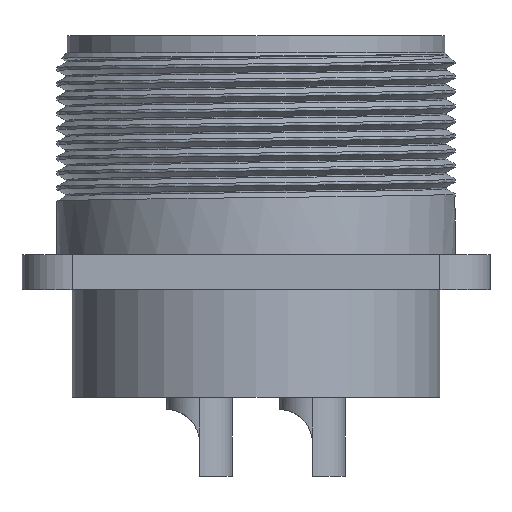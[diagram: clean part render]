
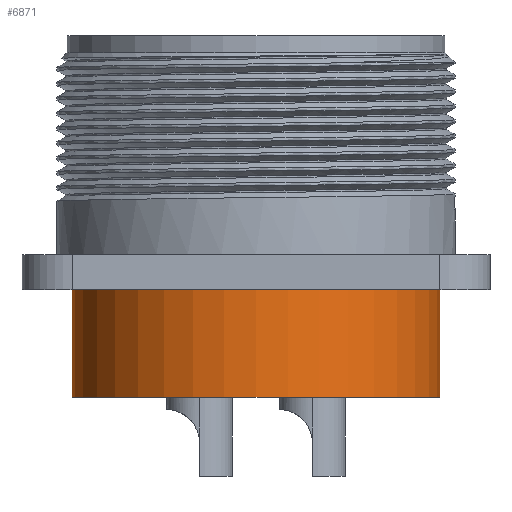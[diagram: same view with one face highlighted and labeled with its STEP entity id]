
A CAD part, front view. The second image highlights one B-rep face of the part: STEP entity #6871.
In plain terms, the highlighted cylindrical face has radius 17.46 mm (diameter 34.92 mm), a partial arc.
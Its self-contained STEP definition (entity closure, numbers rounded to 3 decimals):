
#940 = CARTESIAN_POINT ( 'NONE',  ( -17.46, 0., -34.35 ) ) ;
#948 = VECTOR ( 'NONE', #28484, 1000. ) ;
#1653 = VERTEX_POINT ( 'NONE', #18846 ) ;
#1655 = EDGE_CURVE ( 'NONE', #2087, #1653, #18424, .T. ) ;
#2087 = VERTEX_POINT ( 'NONE', #7945 ) ;
#2746 = EDGE_CURVE ( 'NONE', #1653, #5698, #16587, .T. ) ;
#3776 = DIRECTION ( 'NONE',  ( 0., 0., 1. ) ) ;
#4908 = AXIS2_PLACEMENT_3D ( 'NONE', #15069, #3776, #28660 ) ;
#5493 = CARTESIAN_POINT ( 'NONE',  ( -15.121, -8.73, -23.55 ) ) ;
#5698 = VERTEX_POINT ( 'NONE', #22706 ) ;
#5869 = EDGE_LOOP ( 'NONE', ( #26574, #13783, #21986, #18844, #18796, #20386, #13561, #7584 ) ) ;
#6871 = ADVANCED_FACE ( 'NONE', ( #17916 ), #11218, .T. ) ;
#7252 = CARTESIAN_POINT ( 'NONE',  ( 0., 0., -24.15 ) ) ;
#7584 = ORIENTED_EDGE ( 'NONE', *, *, #8041, .F. ) ;
#7945 = CARTESIAN_POINT ( 'NONE',  ( -8.73, -15.121, -23.55 ) ) ;
#8041 = EDGE_CURVE ( 'NONE', #19809, #22594, #28152, .T. ) ;
#8195 = DIRECTION ( 'NONE',  ( 0., 0., -1. ) ) ;
#8308 = VERTEX_POINT ( 'NONE', #8332 ) ;
#8332 = CARTESIAN_POINT ( 'NONE',  ( -17.46, 0., -34.35 ) ) ;
#8472 = AXIS2_PLACEMENT_3D ( 'NONE', #24730, #11209, #27048 ) ;
#8587 = EDGE_CURVE ( 'NONE', #8308, #19809, #13632, .T. ) ;
#8997 = EDGE_CURVE ( 'NONE', #8308, #24190, #29204, .T. ) ;
#9533 = DIRECTION ( 'NONE',  ( 1., 0., 0. ) ) ;
#10040 = DIRECTION ( 'NONE',  ( 0., 0., 1. ) ) ;
#10191 = CARTESIAN_POINT ( 'NONE',  ( 0., 0., -23.55 ) ) ;
#11209 = DIRECTION ( 'NONE',  ( 0., 0., 1. ) ) ;
#11218 = CYLINDRICAL_SURFACE ( 'NONE', #4908, 17.46 ) ;
#12127 = CARTESIAN_POINT ( 'NONE',  ( 0., 0., -34.35 ) ) ;
#12415 = VECTOR ( 'NONE', #13265, 1000. ) ;
#12504 = DIRECTION ( 'NONE',  ( -1., 0., 0. ) ) ;
#12636 = CARTESIAN_POINT ( 'NONE',  ( 17.46, 0., -34.35 ) ) ;
#13265 = DIRECTION ( 'NONE',  ( 0., 0., -1. ) ) ;
#13561 = ORIENTED_EDGE ( 'NONE', *, *, #28141, .T. ) ;
#13632 = LINE ( 'NONE', #940, #17485 ) ;
#13783 = ORIENTED_EDGE ( 'NONE', *, *, #8997, .T. ) ;
#14397 = DIRECTION ( 'NONE',  ( 1., 0., 0. ) ) ;
#14608 = CARTESIAN_POINT ( 'NONE',  ( -17.46, 0., -24.15 ) ) ;
#15069 = CARTESIAN_POINT ( 'NONE',  ( 0., 0., -34.35 ) ) ;
#15912 = AXIS2_PLACEMENT_3D ( 'NONE', #10191, #26032, #12504 ) ;
#15945 = AXIS2_PLACEMENT_3D ( 'NONE', #7252, #23087, #9533 ) ;
#16173 = CARTESIAN_POINT ( 'NONE',  ( 17.46, 0., -34.35 ) ) ;
#16587 = CIRCLE ( 'NONE', #8472, 17.46 ) ;
#17222 = CARTESIAN_POINT ( 'NONE',  ( -8.73, -15.121, -23.55 ) ) ;
#17485 = VECTOR ( 'NONE', #10040, 1000. ) ;
#17916 = FACE_OUTER_BOUND ( 'NONE', #5869, .T. ) ;
#18335 = LINE ( 'NONE', #12636, #948 ) ;
#18424 = LINE ( 'NONE', #17222, #12415 ) ;
#18796 = ORIENTED_EDGE ( 'NONE', *, *, #1655, .F. ) ;
#18844 = ORIENTED_EDGE ( 'NONE', *, *, #2746, .F. ) ;
#18846 = CARTESIAN_POINT ( 'NONE',  ( -8.73, -15.121, -24.15 ) ) ;
#19047 = EDGE_CURVE ( 'NONE', #22852, #2087, #20096, .T. ) ;
#19344 = AXIS2_PLACEMENT_3D ( 'NONE', #12127, #27965, #14397 ) ;
#19809 = VERTEX_POINT ( 'NONE', #14608 ) ;
#20063 = CARTESIAN_POINT ( 'NONE',  ( -15.121, -8.73, -24.15 ) ) ;
#20096 = CIRCLE ( 'NONE', #15912, 17.46 ) ;
#20386 = ORIENTED_EDGE ( 'NONE', *, *, #19047, .F. ) ;
#21100 = EDGE_CURVE ( 'NONE', #24190, #5698, #18335, .T. ) ;
#21741 = CARTESIAN_POINT ( 'NONE',  ( -15.121, -8.73, -23.55 ) ) ;
#21986 = ORIENTED_EDGE ( 'NONE', *, *, #21100, .T. ) ;
#22594 = VERTEX_POINT ( 'NONE', #20063 ) ;
#22706 = CARTESIAN_POINT ( 'NONE',  ( 17.46, 0., -24.15 ) ) ;
#22852 = VERTEX_POINT ( 'NONE', #5493 ) ;
#23051 = LINE ( 'NONE', #21741, #24493 ) ;
#23087 = DIRECTION ( 'NONE',  ( 0., 0., 1. ) ) ;
#24190 = VERTEX_POINT ( 'NONE', #16173 ) ;
#24493 = VECTOR ( 'NONE', #8195, 1000. ) ;
#24730 = CARTESIAN_POINT ( 'NONE',  ( 0., 0., -24.15 ) ) ;
#26032 = DIRECTION ( 'NONE',  ( 0., 0., 1. ) ) ;
#26574 = ORIENTED_EDGE ( 'NONE', *, *, #8587, .F. ) ;
#27048 = DIRECTION ( 'NONE',  ( 1., 0., 0. ) ) ;
#27965 = DIRECTION ( 'NONE',  ( 0., 0., 1. ) ) ;
#28141 = EDGE_CURVE ( 'NONE', #22852, #22594, #23051, .T. ) ;
#28152 = CIRCLE ( 'NONE', #15945, 17.46 ) ;
#28484 = DIRECTION ( 'NONE',  ( 0., 0., 1. ) ) ;
#28660 = DIRECTION ( 'NONE',  ( 1., 0., 0. ) ) ;
#29204 = CIRCLE ( 'NONE', #19344, 17.46 ) ;
